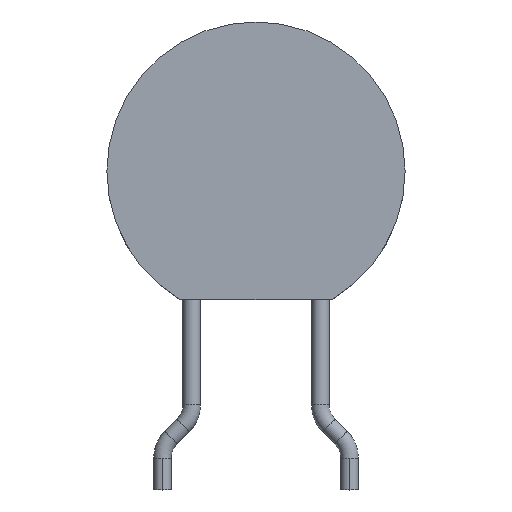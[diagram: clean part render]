
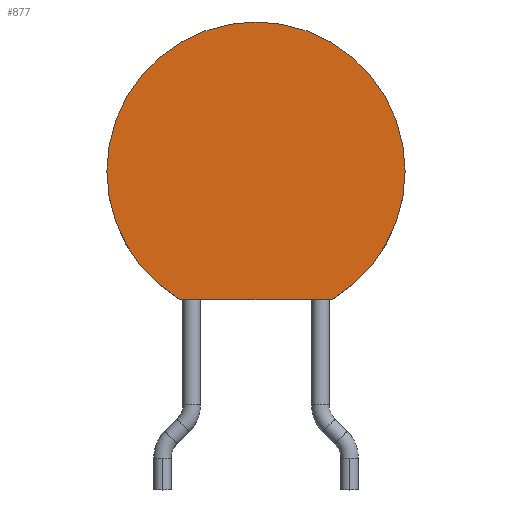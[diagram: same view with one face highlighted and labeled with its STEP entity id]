
A CAD part, top view. The second image highlights one B-rep face of the part: STEP entity #877.
In plain terms, the highlighted planar face has unit normal (0, 0, 1).
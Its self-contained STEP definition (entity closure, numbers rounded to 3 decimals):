
#736 = CARTESIAN_POINT ( 'NONE',  ( 5.1, 9.9, 2.2 ) ) ;
#737 = VERTEX_POINT ( 'NONE', #736 ) ;
#738 = CARTESIAN_POINT ( 'NONE',  ( -5.1, 9.9, 2.2 ) ) ;
#739 = VERTEX_POINT ( 'NONE', #738 ) ;
#740 = CARTESIAN_POINT ( 'NONE',  ( 0., 9.9, 2.2 ) ) ;
#741 = DIRECTION ( 'NONE',  ( 0., 0., 1. ) ) ;
#742 = DIRECTION ( 'NONE',  ( -1., 0., 0. ) ) ;
#743 = AXIS2_PLACEMENT_3D ( 'NONE', #740, #741, #742 ) ;
#744 = CIRCLE ( 'NONE', #743, 5.1) ;
#745 = EDGE_CURVE ( 'NONE', #737, #739, #744, .T. ) ;
#778 = CARTESIAN_POINT ( 'NONE',  ( -2.6, 5.513, 2.2 ) ) ;
#779 = VERTEX_POINT ( 'NONE', #778 ) ;
#780 = CARTESIAN_POINT ( 'NONE',  ( 0., 9.9, 2.2 ) ) ;
#781 = DIRECTION ( 'NONE',  ( 0., 0., 1. ) ) ;
#782 = DIRECTION ( 'NONE',  ( -1., 0., 0. ) ) ;
#783 = AXIS2_PLACEMENT_3D ( 'NONE', #780, #781, #782 ) ;
#784 = CIRCLE ( 'NONE', #783, 5.1) ;
#785 = EDGE_CURVE ( 'NONE', #739, #779, #784, .T. ) ;
#812 = CARTESIAN_POINT ( 'NONE',  ( 2.6, 5.513, 2.2 ) ) ;
#813 = VERTEX_POINT ( 'NONE', #812 ) ;
#814 = CARTESIAN_POINT ( 'NONE',  ( 0., 9.9, 2.2 ) ) ;
#815 = DIRECTION ( 'NONE',  ( 0., 0., 1. ) ) ;
#816 = DIRECTION ( 'NONE',  ( -1., 0., 0. ) ) ;
#817 = AXIS2_PLACEMENT_3D ( 'NONE', #814, #815, #816 ) ;
#818 = CIRCLE ( 'NONE', #817, 5.1) ;
#819 = EDGE_CURVE ( 'NONE', #813, #737, #818, .T. ) ;
#851 = CARTESIAN_POINT ( 'NONE',  ( -2.6, 5.513, 2.2 ) ) ;
#852 = DIRECTION ( 'NONE',  ( 1., 0., 0. ) ) ;
#853 = VECTOR ( 'NONE', #852, 1000. ) ;
#854 = LINE ( 'NONE', #851, #853 ) ;
#855 = EDGE_CURVE ( 'NONE', #779, #813, #854, .T. ) ;
#866 = ORIENTED_EDGE ( 'NONE', *, *, #819, .T. ) ;
#867 = ORIENTED_EDGE ( 'NONE', *, *, #745, .T. ) ;
#868 = ORIENTED_EDGE ( 'NONE', *, *, #785, .T. ) ;
#869 = ORIENTED_EDGE ( 'NONE', *, *, #855, .T. ) ;
#870 = EDGE_LOOP ( 'NONE', ( #866, #867, #868, #869 ) ) ;
#871 = FACE_OUTER_BOUND ( 'NONE', #870, .T. ) ;
#872 = CARTESIAN_POINT ( 'NONE',  ( 0., 9.9, 2.2 ) ) ;
#873 = DIRECTION ( 'NONE',  ( 0., 0., -1. ) ) ;
#874 = DIRECTION ( 'NONE',  ( -1., 0., 0. ) ) ;
#875 = AXIS2_PLACEMENT_3D ( 'NONE', #872, #873, #874 ) ;
#876 = PLANE ( 'NONE', #875 ) ;
#877 = ADVANCED_FACE ( 'NONE', ( #871 ), #876, .F. ) ;
